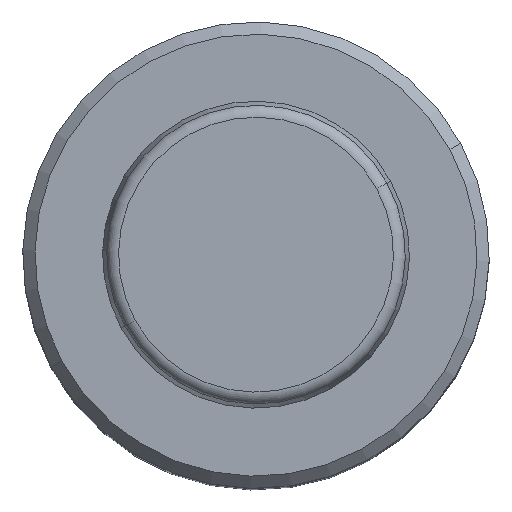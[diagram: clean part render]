
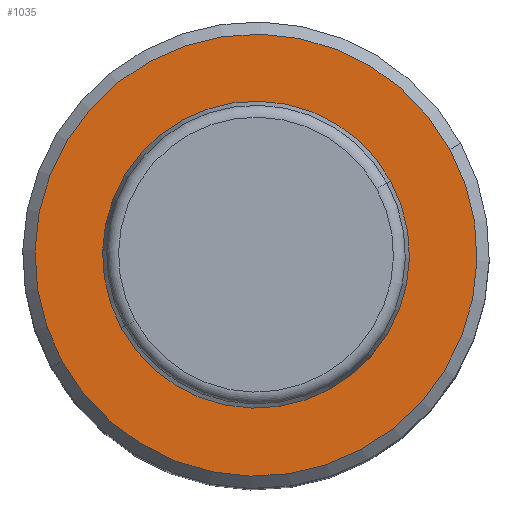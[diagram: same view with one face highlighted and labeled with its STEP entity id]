
A CAD part, top view. The second image highlights one B-rep face of the part: STEP entity #1035.
In plain terms, the highlighted planar face has unit normal (0, 0, 1).
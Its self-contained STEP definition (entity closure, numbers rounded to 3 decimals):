
#1012=CARTESIAN_POINT('Axis2P3D Location',(19.,0.,74.)) ;
#1017=CARTESIAN_POINT('Axis2P3D Location',(0.,0.,74.)) ;
#1021=CARTESIAN_POINT('Vertex',(-15.796,-8.63,74.)) ;
#1023=CARTESIAN_POINT('Vertex',(15.796,8.63,74.)) ;
#1026=CARTESIAN_POINT('Axis2P3D Location',(0.,0.,74.)) ;
#1013=DIRECTION('Axis2P3D Direction',(0.,0.,1.)) ;
#1014=DIRECTION('Axis2P3D XDirection',(1.,0.,0.)) ;
#1018=DIRECTION('Axis2P3D Direction',(0.,0.,1.)) ;
#1027=DIRECTION('Axis2P3D Direction',(0.,0.,1.)) ;
#1015=AXIS2_PLACEMENT_3D('Plane Axis2P3D',#1012,#1013,#1014) ;
#1019=AXIS2_PLACEMENT_3D('Circle Axis2P3D',#1017,#1018,$) ;
#1028=AXIS2_PLACEMENT_3D('Circle Axis2P3D',#1026,#1027,$) ;
#1032=ORIENTED_EDGE('',*,*,#1025,.T.) ;
#1033=ORIENTED_EDGE('',*,*,#1030,.T.) ;
#1035=ADVANCED_FACE('',(#1034),#1016,.T.) ;
#1020=CIRCLE('generated circle',#1019,18.) ;
#1029=CIRCLE('generated circle',#1028,18.) ;
#1025=EDGE_CURVE('',#1022,#1024,#1020,.T.) ;
#1030=EDGE_CURVE('',#1024,#1022,#1029,.T.) ;
#1031=EDGE_LOOP('',(#1032,#1033)) ;
#1034=FACE_OUTER_BOUND('',#1031,.T.) ;
#1016=PLANE('Plane',#1015) ;
#1022=VERTEX_POINT('',#1021) ;
#1024=VERTEX_POINT('',#1023) ;
